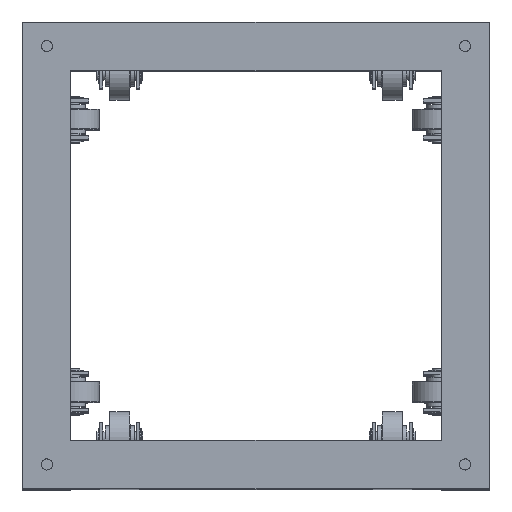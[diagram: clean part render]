
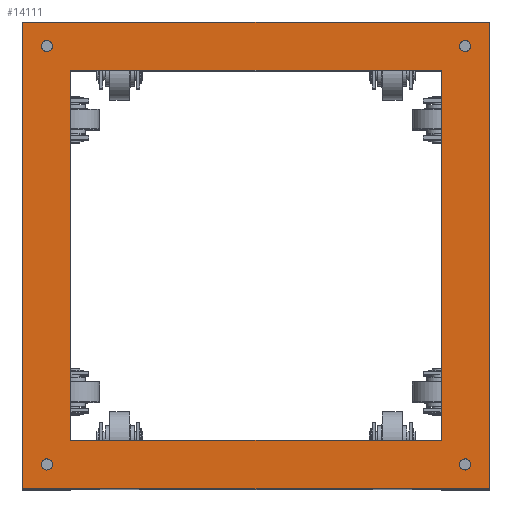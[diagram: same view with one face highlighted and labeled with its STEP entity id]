
A CAD part, top view. The second image highlights one B-rep face of the part: STEP entity #14111.
In plain terms, the highlighted planar face has unit normal (0, 0, 1).
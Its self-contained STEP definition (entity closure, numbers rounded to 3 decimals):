
#397=LINE('',#22076,#1193);
#415=LINE('',#22114,#1211);
#428=LINE('',#22204,#1224);
#435=LINE('',#22215,#1231);
#475=LINE('',#22319,#1271);
#957=LINE('',#23535,#1753);
#960=LINE('',#23578,#1756);
#962=LINE('',#23617,#1758);
#1193=VECTOR('',#18318,460.);
#1211=VECTOR('',#18348,460.);
#1224=VECTOR('',#18445,460.);
#1231=VECTOR('',#18456,580.);
#1271=VECTOR('',#18552,460.);
#1753=VECTOR('',#19820,580.);
#1756=VECTOR('',#19875,580.);
#1758=VECTOR('',#19927,580.);
#2392=FACE_BOUND('',#5129,.T.);
#2393=FACE_BOUND('',#5130,.T.);
#2394=FACE_BOUND('',#5131,.T.);
#2395=FACE_BOUND('',#5132,.T.);
#2396=FACE_BOUND('',#5133,.T.);
#3613=FACE_OUTER_BOUND('',#5128,.T.);
#5128=EDGE_LOOP('',(#11685,#11686,#11687,#11688));
#5129=EDGE_LOOP('',(#11689));
#5130=EDGE_LOOP('',(#11690));
#5131=EDGE_LOOP('',(#11691));
#5132=EDGE_LOOP('',(#11692));
#5133=EDGE_LOOP('',(#11693,#11694,#11695,#11696));
#5738=CIRCLE('',#15292,6.918);
#5806=CIRCLE('',#15714,6.918);
#5810=CIRCLE('',#15738,6.918);
#5815=CIRCLE('',#15764,6.918);
#6541=VERTEX_POINT('',#22068);
#6542=VERTEX_POINT('',#22074);
#6556=VERTEX_POINT('',#22112);
#6579=VERTEX_POINT('',#22169);
#6591=VERTEX_POINT('',#22203);
#6592=VERTEX_POINT('',#22212);
#6593=VERTEX_POINT('',#22214);
#6958=VERTEX_POINT('',#23498);
#6970=VERTEX_POINT('',#23533);
#6971=VERTEX_POINT('',#23538);
#6984=VERTEX_POINT('',#23576);
#6985=VERTEX_POINT('',#23581);
#7830=EDGE_CURVE('',#6541,#6542,#397,.T.);
#7849=EDGE_CURVE('',#6556,#6542,#415,.T.);
#7872=EDGE_CURVE('',#6579,#6579,#5738,.T.);
#7888=EDGE_CURVE('',#6591,#6541,#428,.T.);
#7895=EDGE_CURVE('',#6593,#6592,#435,.T.);
#7947=EDGE_CURVE('',#6556,#6591,#475,.T.);
#8528=EDGE_CURVE('',#6958,#6958,#5806,.T.);
#8545=EDGE_CURVE('',#6592,#6970,#957,.T.);
#8547=EDGE_CURVE('',#6971,#6971,#5810,.T.);
#8565=EDGE_CURVE('',#6970,#6984,#960,.T.);
#8567=EDGE_CURVE('',#6985,#6985,#5815,.T.);
#8583=EDGE_CURVE('',#6984,#6593,#962,.T.);
#11685=ORIENTED_EDGE('',*,*,#7895,.T.);
#11686=ORIENTED_EDGE('',*,*,#8545,.T.);
#11687=ORIENTED_EDGE('',*,*,#8565,.T.);
#11688=ORIENTED_EDGE('',*,*,#8583,.T.);
#11689=ORIENTED_EDGE('',*,*,#7872,.T.);
#11690=ORIENTED_EDGE('',*,*,#8547,.T.);
#11691=ORIENTED_EDGE('',*,*,#8528,.T.);
#11692=ORIENTED_EDGE('',*,*,#8567,.T.);
#11693=ORIENTED_EDGE('',*,*,#7830,.T.);
#11694=ORIENTED_EDGE('',*,*,#7849,.F.);
#11695=ORIENTED_EDGE('',*,*,#7947,.T.);
#11696=ORIENTED_EDGE('',*,*,#7888,.T.);
#12338=PLANE('',#15787);
#14111=ADVANCED_FACE('',(#3613,#2392,#2393,#2394,#2395,#2396),#12338,.T.);
#15292=AXIS2_PLACEMENT_3D('',#22170,#18401,#18402);
#15714=AXIS2_PLACEMENT_3D('',#23499,#19773,#19774);
#15738=AXIS2_PLACEMENT_3D('',#23539,#19824,#19825);
#15764=AXIS2_PLACEMENT_3D('',#23582,#19879,#19880);
#15787=AXIS2_PLACEMENT_3D('',#23616,#19925,#19926);
#18318=DIRECTION('',(1.,0.,0.));
#18348=DIRECTION('',(0.,1.,0.));
#18401=DIRECTION('center_axis',(0.,0.,
-1.));
#18402=DIRECTION('ref_axis',(0.,1.,0.));
#18445=DIRECTION('',(0.,1.,0.));
#18456=DIRECTION('',(-1.,0.,0.));
#18552=DIRECTION('',(-1.,0.,0.));
#19773=DIRECTION('center_axis',(0.,0.,
-1.));
#19774=DIRECTION('ref_axis',(0.,1.,0.));
#19820=DIRECTION('',(0.,-1.,0.));
#19824=DIRECTION('center_axis',(0.,0.,
-1.));
#19825=DIRECTION('ref_axis',(0.,-1.,0.));
#19875=DIRECTION('',(1.,0.,0.));
#19879=DIRECTION('center_axis',(0.,0.,
-1.));
#19880=DIRECTION('ref_axis',(0.,-1.,0.));
#19925=DIRECTION('center_axis',(0.,0.,
1.));
#19926=DIRECTION('ref_axis',(1.,0.,0.));
#19927=DIRECTION('',(0.,1.,0.));
#22068=CARTESIAN_POINT('',(30.,490.,980.));
#22074=CARTESIAN_POINT('',(490.,490.,980.));
#22076=CARTESIAN_POINT('',(30.,490.,980.));
#22112=CARTESIAN_POINT('',(490.,30.,980.));
#22114=CARTESIAN_POINT('',(490.,30.,980.));
#22169=CARTESIAN_POINT('',(0.,526.917,980.));
#22170=CARTESIAN_POINT('Origin',(0.,520.,
980.));
#22203=CARTESIAN_POINT('',(30.,30.,980.));
#22204=CARTESIAN_POINT('',(30.,550.,980.));
#22212=CARTESIAN_POINT('',(-30.,550.,980.));
#22214=CARTESIAN_POINT('',(550.,550.,980.));
#22215=CARTESIAN_POINT('',(0.,550.,980.));
#22319=CARTESIAN_POINT('',(520.,30.,980.));
#23498=CARTESIAN_POINT('',(0.,6.917,980.));
#23499=CARTESIAN_POINT('Origin',(0.,0.,
980.));
#23533=CARTESIAN_POINT('',(-30.,-30.,980.));
#23535=CARTESIAN_POINT('',(-30.,30.,980.));
#23538=CARTESIAN_POINT('',(520.,-6.918,980.));
#23539=CARTESIAN_POINT('Origin',(520.,0.,
980.));
#23576=CARTESIAN_POINT('',(550.,-30.,980.));
#23578=CARTESIAN_POINT('',(520.,-30.,980.));
#23581=CARTESIAN_POINT('',(520.,513.082,980.));
#23582=CARTESIAN_POINT('Origin',(520.,520.,980.));
#23616=CARTESIAN_POINT('Origin',(520.,490.,980.));
#23617=CARTESIAN_POINT('',(550.,490.,980.));
